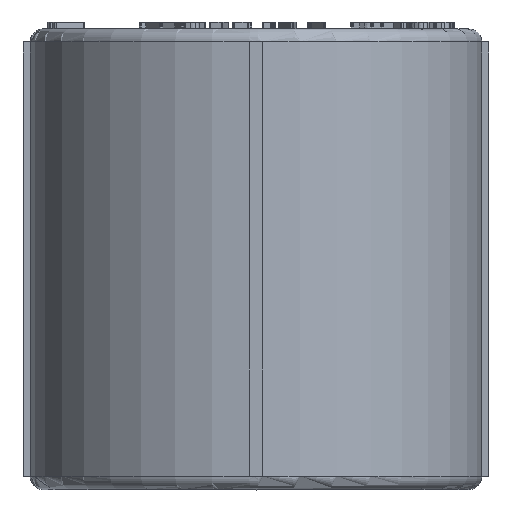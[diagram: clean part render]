
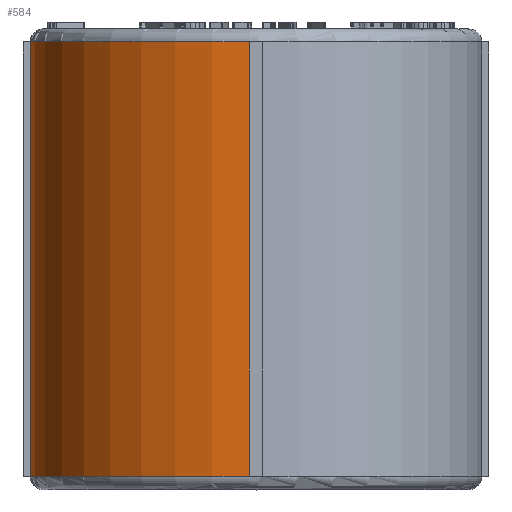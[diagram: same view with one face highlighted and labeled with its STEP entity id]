
A CAD part, top view. The second image highlights one B-rep face of the part: STEP entity #584.
In plain terms, the highlighted cylindrical face has radius 17.25 mm (diameter 34.5 mm), a partial arc.
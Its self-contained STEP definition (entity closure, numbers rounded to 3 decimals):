
#584=ADVANCED_FACE('',(#4076),#4078,.T.);
#4076=FACE_BOUND('',#4077,.T.);
#4077=EDGE_LOOP('',(#8274,#8275,#8276,#8277));
#4078=CYLINDRICAL_SURFACE('',#4079,17.25);
#4079=AXIS2_PLACEMENT_3D('',#4080,#4081,#4082);
#4080=CARTESIAN_POINT('',(0.,-17.6,0.));
#4081=DIRECTION('',(0.,1.,0.));
#4082=DIRECTION('',(-1.,0.,0.));
#8274=ORIENTED_EDGE('',*,*,#9899,.F.);
#8275=ORIENTED_EDGE('',*,*,#9900,.T.);
#8276=ORIENTED_EDGE('',*,*,#9901,.F.);
#8277=ORIENTED_EDGE('',*,*,#9891,.F.);
#9891=EDGE_CURVE('',#12454,#12456,#12457,.T.);
#9899=EDGE_CURVE('',#12469,#12454,#12470,.T.);
#9900=EDGE_CURVE('',#12469,#12471,#12472,.T.);
#9901=EDGE_CURVE('',#12456,#12471,#12473,.F.);
#12454=VERTEX_POINT('',#18059);
#12456=VERTEX_POINT('',#18064);
#12457=CIRCLE('',#18065,17.25);
#12469=VERTEX_POINT('',#18097);
#12470=LINE('',#18098,#18099);
#12471=VERTEX_POINT('',#18101);
#12472=CIRCLE('',#18102,17.25);
#12473=LINE('',#18106,#18107);
#18059=CARTESIAN_POINT('',(-17.243,16.6,0.5));
#18064=CARTESIAN_POINT('',(-0.5,16.6,17.243));
#18065=AXIS2_PLACEMENT_3D('',#18066,#18067,#18068);
#18066=CARTESIAN_POINT('',(0.,16.6,0.));
#18067=DIRECTION('',(0.,1.,0.));
#18068=DIRECTION('',(-1.,0.,0.029));
#18097=CARTESIAN_POINT('',(-17.243,-16.6,0.5));
#18098=CARTESIAN_POINT('',(-17.243,-16.6,0.5));
#18099=VECTOR('',#18100,1.);
#18100=DIRECTION('',(0.,1.,0.));
#18101=CARTESIAN_POINT('',(-0.5,-16.6,17.243));
#18102=AXIS2_PLACEMENT_3D('',#18103,#18104,#18105);
#18103=CARTESIAN_POINT('',(0.,-16.6,0.));
#18104=DIRECTION('',(0.,1.,0.));
#18105=DIRECTION('',(-1.,0.,0.029));
#18106=CARTESIAN_POINT('',(-0.5,-16.6,17.243));
#18107=VECTOR('',#18108,1.);
#18108=DIRECTION('',(0.,1.,0.));
